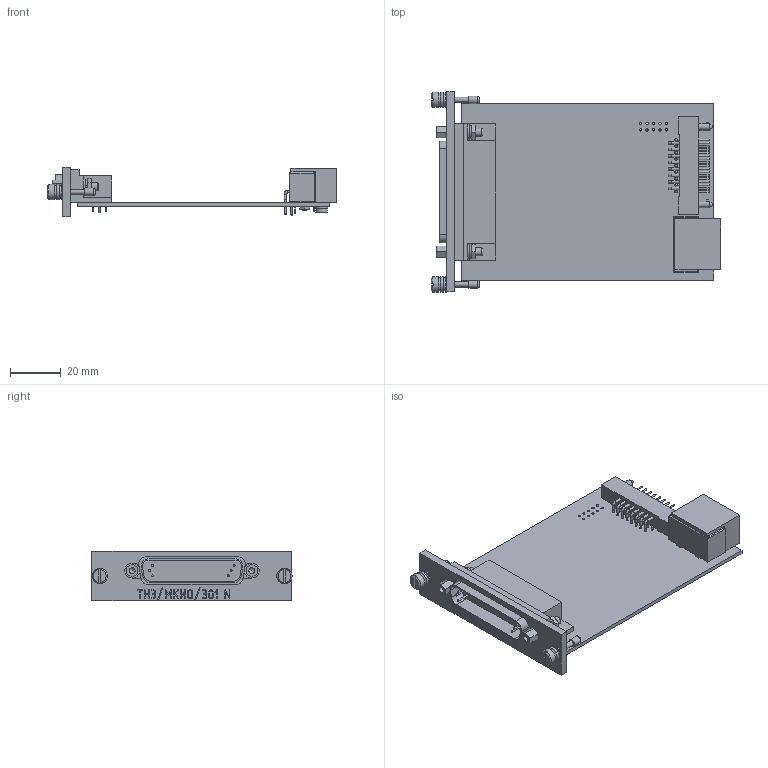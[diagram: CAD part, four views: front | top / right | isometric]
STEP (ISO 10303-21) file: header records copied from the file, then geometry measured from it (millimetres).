
FILE_DESCRIPTION(('STEP AP203'), '1');
FILE_NAME('侍鸵.468153.009 填潴朦 彝3_淌任_301', '', ('UNSPECIFIED'), ('UNSPECIFIED'), 'C3D Converter', 'C3D Toolkit', '');
FILE_SCHEMA(('CONFIG_CONTROL_DESIGN'));
Length unit declared in the file: millimetre
Products named in the file (1): КМНТ.468153.009
Bounding box: 113.69 x 78.6 x 19.6 mm (x, y, z)
Volume: 30279.2 mm3; surface area: 27566.1 mm2
Topology: 3 solids, 3 shells, 1329 faces, 3678 edges, 2409 vertices
Faces by surface type: cylinder 667, plane 567, cone 40, sphere 36, torus 19
Full cylindrical faces by diameter (mm): 0.6 x43, 0.7 x12, 0.8 x17, 0.9 x10, 1 x61, 1.1 x7, 1.4 x2, 1.6 x2, 2 x2, 2.362 x2, 2.459 x2, 2.49 x2, 3 x4, 3.175 x4, 3.2 x6, 3.4 x4, 4.5 x2, 5 x2, 6 x10
Entity records: 54800 total; most frequent: CARTESIAN_POINT 9811, DIRECTION 7417, ORIENTED_EDGE 6766, EDGE_CURVE 3383, AXIS2_PLACEMENT_3D 2809, VERTEX_POINT 2394, EDGE_LOOP 1855, LINE 1799
